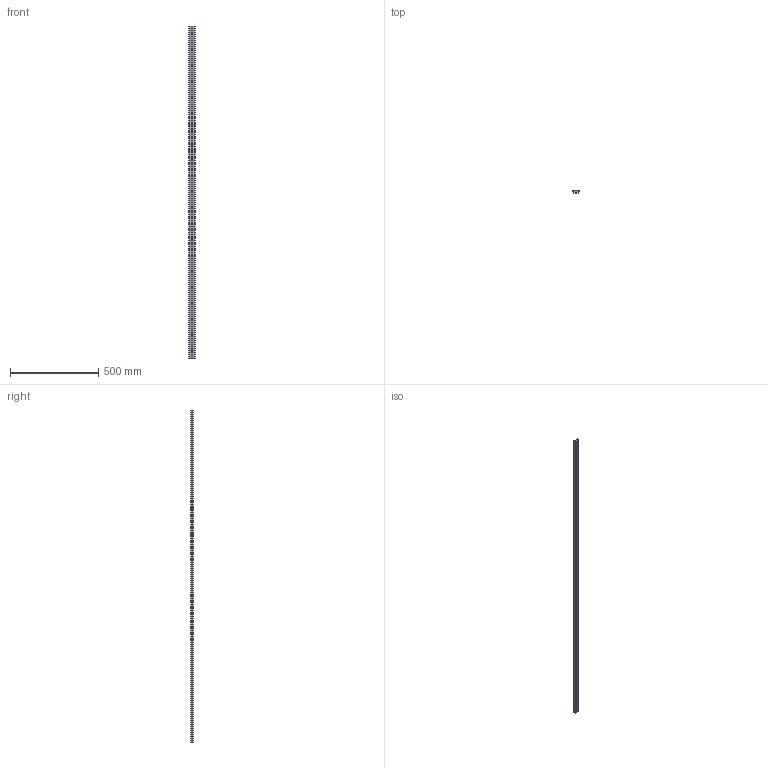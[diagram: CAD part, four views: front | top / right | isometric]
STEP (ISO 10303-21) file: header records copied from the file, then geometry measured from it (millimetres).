
FILE_DESCRIPTION(('STEP AP203'),'1');
FILE_NAME('slide_ns35l1886p3.stp','2022-07-01T04:27:34',('TraceParts'),('TraceParts S.A.'),'Spatial InterOp 3D',' ',' ');
FILE_SCHEMA(('CONFIG_CONTROL_DESIGN'));
Length unit declared in the file: millimetre
Products named in the file (1): 1
Bounding box: 35.25 x 12.66 x 1886 mm (x, y, z)
Volume: 559355.1 mm3; surface area: 194671.7 mm2
Topology: 1 solids, 1 shells, 143 faces, 360 edges, 240 vertices
Faces by surface type: cylinder 104, plane 39
Entity records: 4530 total; most frequent: DIRECTION 856, CARTESIAN_POINT 744, ORIENTED_EDGE 720, EDGE_CURVE 360, AXIS2_PLACEMENT_3D 352, VERTEX_POINT 240, CIRCLE 208, EDGE_LOOP 206
